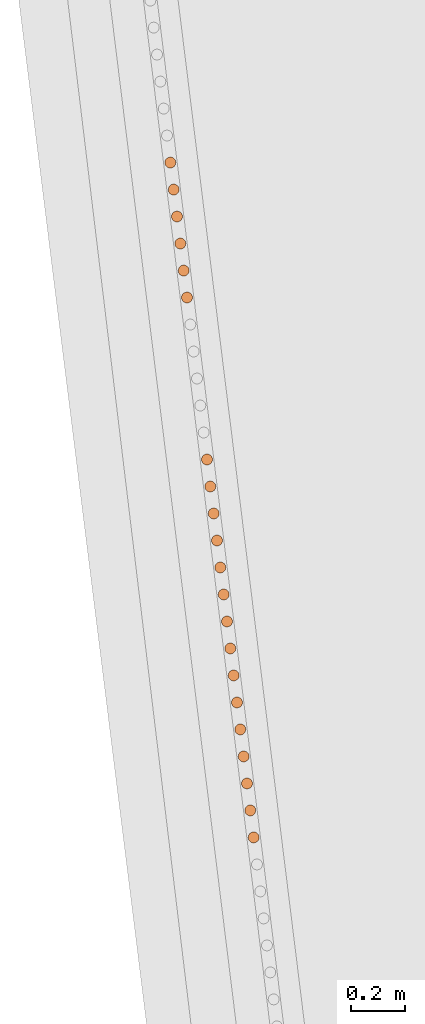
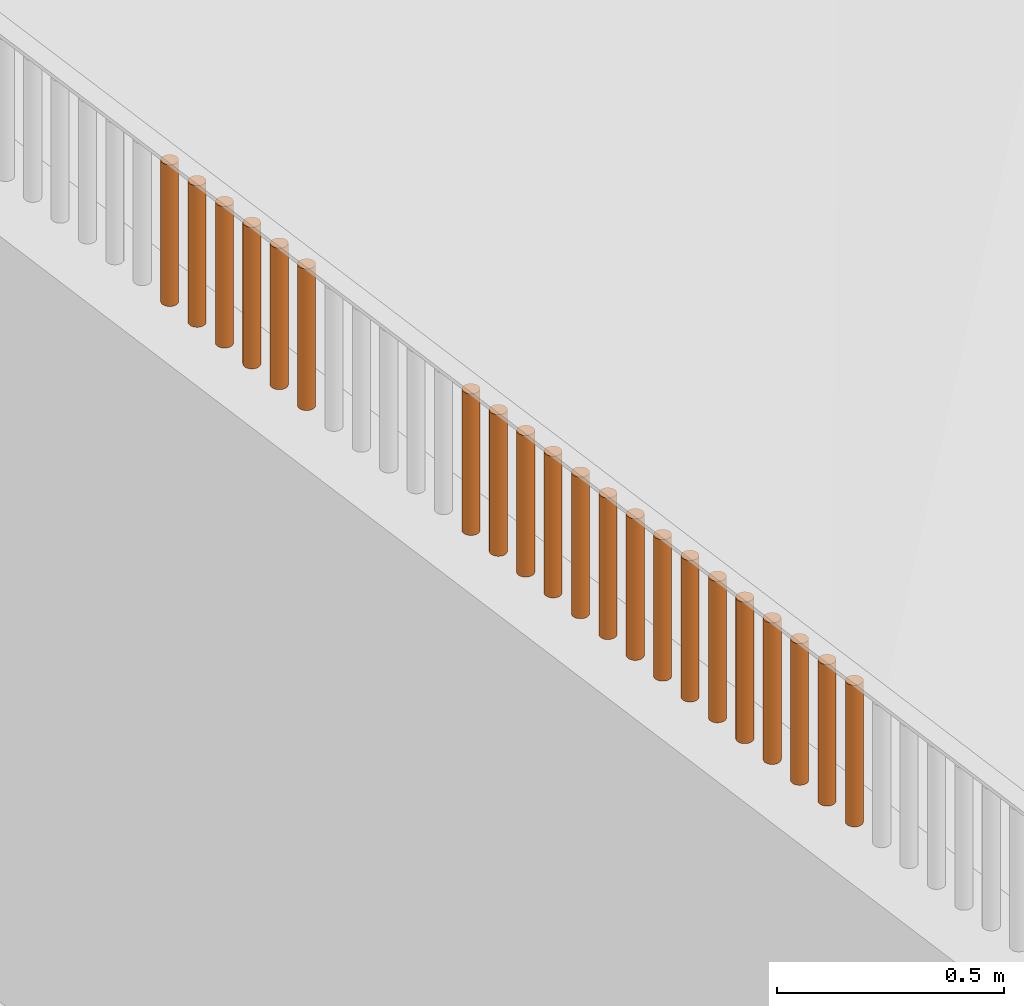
# One storey, part 223 of 1809: 21 proxies, 1 element without a shape of its own.
"""IFC2X3 building model written with IfcOpenShell, lengths in millimetres."""

from ifc_helpers import new_model, entity, si_unit, converted_unit, derived_unit, money_unit, direction, frame, origin_with_axes, place, context, subcontext, project, spatial, faceted_brep, source, transform, mapped, material, type_object, element, aggregate, save


model = new_model("IFC2X3")

# Units and contexts
model_context = context("Model", 3, precision=0.01, world=origin_with_axes(), true_north=direction((0.0, 1.0)))
body_context = subcontext(model_context, "Body", "Model", "MODEL_VIEW")
ifc_project = project(units=[si_unit("LENGTHUNIT", "METRE", prefix="MILLI"), si_unit("AREAUNIT", "SQUARE_METRE"), si_unit("VOLUMEUNIT", "CUBIC_METRE"), converted_unit("PLANEANGLEUNIT", "DEGREE", entity("IfcPlaneAngleMeasure", 0.0174532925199), si_unit("PLANEANGLEUNIT", "RADIAN"), dimensions=[0, 0, 0, 0, 0, 0, 0]), si_unit("SOLIDANGLEUNIT", "STERADIAN"), money_unit("EUR"), converted_unit("TIMEUNIT", "Year", entity("IfcTimeMeasure", 31556926.0), si_unit("TIMEUNIT", "SECOND"), dimensions=[0, 0, 1, 0, 0, 0, 0]), si_unit("MASSUNIT", "GRAM", prefix="KILO"), si_unit("THERMODYNAMICTEMPERATUREUNIT", "DEGREE_CELSIUS"), si_unit("LUMINOUSINTENSITYUNIT", "LUMEN"), si_unit("ENERGYUNIT", "JOULE", prefix="MEGA"), derived_unit("THERMALCONDUCTANCEUNIT", [(si_unit("POWERUNIT", "WATT"), 1), (si_unit("LENGTHUNIT", "METRE"), -1), (si_unit("THERMODYNAMICTEMPERATUREUNIT", "KELVIN"), -1)]), derived_unit("SPECIFICHEATCAPACITYUNIT", [(si_unit("ENERGYUNIT", "JOULE"), 1), (si_unit("MASSUNIT", "GRAM", prefix="KILO"), -1), (si_unit("THERMODYNAMICTEMPERATUREUNIT", "KELVIN"), -1)]), derived_unit("MASSDENSITYUNIT", [(si_unit("MASSUNIT", "GRAM", prefix="KILO"), 1), (si_unit("VOLUMEUNIT", "CUBIC_METRE"), -1)])], contexts=[model_context])

# Site, building, storey
site_placement = place(None, origin_with_axes())
site = spatial("IfcSite", under=ifc_project, at=site_placement, Name="Politse- ja Piirivalveameti ning Päästeameti ühishoone", CompositionType="ELEMENT")
building_placement = place(site_placement, origin_with_axes())
building = spatial("IfcBuilding", under=site, at=building_placement, Name="Politse- ja Piirivalveameti ning Päästeameti ühishoone", CompositionType="ELEMENT")
storey_placement = place(building_placement, origin_with_axes())
storey = spatial("IfcBuildingStorey", under=building, at=storey_placement, Name="Esimene korrus", CompositionType="ELEMENT", Elevation=0.0)

# Proxies
building_element_proxy_type_1 = type_object("IfcBuildingElementProxyType", Name="Railing Type", PredefinedType="NOTDEFINED")
proxy_1_placement = place(storey_placement, frame((-18956.5522504, -53688.4757966, 2100.0), z_axis=(0.0, 0.0, 1.0), x_axis=(1.0, 0.0, 0.0)))
proxy_1 = element("IfcBuildingElementProxy", 1, at=proxy_1_placement, inside=storey, type_object=building_element_proxy_type_1, Name="PIIRDEAED")
ifc_material = material(Name="ET-06_Teras - Konstruktsioon")
building_element_proxy_type_2 = type_object("IfcBuildingElementProxyType", Name="IfcBuildingElementProxy", PredefinedType="NOTDEFINED")
shared_shape_1 = source(origin_with_axes(), body_context, "Body", "Brep", [
    faceted_brep([(0.0, -20.0, 0.0), (3.47296355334, -19.6961550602, 0.0), (3.47296355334, -19.6961550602, 380.000012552), (0.0, -20.0, 380.000012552), (-3.47296355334, -19.6961550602, 0.0), (-6.84040286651, -18.7938524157, 0.0), (-10.0, -17.3205080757, 0.0), (-12.8557521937, -15.3208888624, 0.0), (-15.3208888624, -12.8557521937, 0.0), (-17.3205080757, -10.0, 0.0), (-18.7938524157, -6.84040286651, 0.0), (-19.6961550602, -3.47296355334, 0.0), (-20.0, 0.0, 0.0), (-19.6961550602, 3.47296355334, 0.0), (-18.7938524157, 6.84040286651, 0.0), (-17.3205080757, 10.0, 0.0), (-15.3208888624, 12.8557521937, 0.0), (-12.8557521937, 15.3208888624, 0.0), (-10.0, 17.3205080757, 0.0), (-6.84040286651, 18.7938524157, 0.0), (-3.47296355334, 19.6961550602, 0.0), (0.0, 20.0, 0.0), (3.47296355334, 19.6961550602, 0.0), (6.84040286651, 18.7938524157, 0.0), (10.0, 17.3205080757, 0.0), (12.8557521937, 15.3208888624, 0.0), (15.3208888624, 12.8557521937, 0.0), (17.3205080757, 10.0, 0.0), (18.7938524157, 6.84040286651, 0.0), (19.6961550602, 3.47296355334, 0.0), (20.0, 0.0, 0.0), (19.6961550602, -3.47296355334, 0.0), (18.7938524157, -6.84040286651, 0.0), (17.3205080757, -10.0, 0.0), (15.3208888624, -12.8557521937, 0.0), (12.8557521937, -15.3208888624, 0.0), (10.0, -17.3205080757, 0.0), (6.84040286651, -18.7938524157, 0.0), (6.84040286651, -18.7938524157, 380.000012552), (10.0, -17.3205080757, 380.000012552), (12.8557521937, -15.3208888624, 380.000012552), (15.3208888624, -12.8557521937, 380.000012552), (17.3205080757, -10.0, 380.000012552), (18.7938524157, -6.84040286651, 380.000012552), (19.6961550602, -3.47296355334, 380.000012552), (20.0, 0.0, 380.000012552), (19.6961550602, 3.47296355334, 380.000012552), (18.7938524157, 6.84040286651, 380.000012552), (17.3205080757, 10.0, 380.000012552), (15.3208888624, 12.8557521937, 380.000012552), (12.8557521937, 15.3208888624, 380.000012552), (10.0, 17.3205080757, 380.000012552), (6.84040286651, 18.7938524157, 380.000012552), (3.47296355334, 19.6961550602, 380.000012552), (0.0, 20.0, 380.000012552), (-3.47296355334, 19.6961550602, 380.000012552), (-6.84040286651, 18.7938524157, 380.000012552), (-10.0, 17.3205080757, 380.000012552), (-12.8557521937, 15.3208888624, 380.000012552), (-15.3208888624, 12.8557521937, 380.000012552), (-17.3205080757, 10.0, 380.000012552), (-18.7938524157, 6.84040286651, 380.000012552), (-19.6961550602, 3.47296355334, 380.000012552), (-20.0, 0.0, 380.000012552), (-19.6961550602, -3.47296355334, 380.000012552), (-18.7938524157, -6.84040286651, 380.000012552), (-17.3205080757, -10.0, 380.000012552), (-15.3208888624, -12.8557521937, 380.000012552), (-12.8557521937, -15.3208888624, 380.000012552), (-10.0, -17.3205080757, 380.000012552), (-6.84040286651, -18.7938524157, 380.000012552), (-3.47296355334, -19.6961550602, 380.000012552)], [[[0, 1, 2, 3]], [[0, 4, 5, 6, 7, 8, 9, 10, 11, 12, 13, 14, 15, 16, 17, 18, 19, 20, 21, 22, 23, 24, 25, 26, 27, 28, 29, 30, 31, 32, 33, 34, 35, 36, 37, 1]], [[1, 37, 38, 2]], [[3, 2, 38, 39, 40, 41, 42, 43, 44, 45, 46, 47, 48, 49, 50, 51, 52, 53, 54, 55, 56, 57, 58, 59, 60, 61, 62, 63, 64, 65, 66, 67, 68, 69, 70, 71]], [[4, 0, 3, 71]], [[5, 4, 71, 70]], [[6, 5, 70, 69]], [[7, 6, 69, 68]], [[8, 7, 68, 67]], [[9, 8, 67, 66]], [[10, 9, 66, 65]], [[11, 10, 65, 64]], [[12, 11, 64, 63]], [[13, 12, 63, 62]], [[14, 13, 62, 61]], [[15, 14, 61, 60]], [[16, 15, 60, 59]], [[17, 16, 59, 58]], [[18, 17, 58, 57]], [[19, 18, 57, 56]], [[20, 19, 56, 55]], [[21, 20, 55, 54]], [[22, 21, 54, 53]], [[23, 22, 53, 52]], [[24, 23, 52, 51]], [[25, 24, 51, 50]], [[26, 25, 50, 49]], [[27, 26, 49, 48]], [[28, 27, 48, 47]], [[29, 28, 47, 46]], [[30, 29, 46, 45]], [[31, 30, 45, 44]], [[32, 31, 44, 43]], [[33, 32, 43, 42]], [[34, 33, 42, 41]], [[35, 34, 41, 40]], [[36, 35, 40, 39]], [[37, 36, 39, 38]]]),
])
proxy_2_placement = place(proxy_1_placement, frame((-4857.38005393, 38518.1667696, -1.25517001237e-05), z_axis=(0.0, 0.0, 1.0), x_axis=(1.0, 0.0, 0.0)))
proxy_2 = element("IfcBuildingElementProxy", 2, at=proxy_2_placement, type_object=building_element_proxy_type_2, material=ifc_material, Name="BALUSTER - 001", context=body_context, shape_type="MappedRepresentation", body=[
    mapped(shared_shape_1, transform((0.0, 0.0, 0.0), x_axis=(0.992468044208, 0.122503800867, 0.0), y_axis=(-0.122503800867, 0.992468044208, 0.0), z_axis=(0.0, 0.0, 1.0))),
])
proxy_3_placement = place(proxy_1_placement, frame((-4881.87546375, 38716.6170325, -1.25517001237e-05), z_axis=(0.0, 0.0, 1.0), x_axis=(1.0, 0.0, 0.0)))
proxy_3 = element("IfcBuildingElementProxy", 3, at=proxy_3_placement, type_object=building_element_proxy_type_2, material=ifc_material, Name="BALUSTER - 001", context=body_context, shape_type="MappedRepresentation", body=[
    mapped(shared_shape_1, transform((0.0, 0.0, 0.0), x_axis=(0.992468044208, 0.122503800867, 0.0), y_axis=(-0.122503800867, 0.992468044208, 0.0), z_axis=(0.0, 0.0, 1.0))),
])
proxy_4_placement = place(proxy_1_placement, frame((-4906.37087358, 38915.0672953, -1.25517001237e-05), z_axis=(0.0, 0.0, 1.0), x_axis=(1.0, 0.0, 0.0)))
proxy_4 = element("IfcBuildingElementProxy", 4, at=proxy_4_placement, type_object=building_element_proxy_type_2, material=ifc_material, Name="BALUSTER - 001", context=body_context, shape_type="MappedRepresentation", body=[
    mapped(shared_shape_1, transform((0.0, 0.0, 0.0), x_axis=(0.992468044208, 0.122503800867, 0.0), y_axis=(-0.122503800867, 0.992468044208, 0.0), z_axis=(0.0, 0.0, 1.0))),
])
proxy_5_placement = place(proxy_1_placement, frame((-4930.86628341, 39113.5175582, -1.25517001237e-05), z_axis=(0.0, 0.0, 1.0), x_axis=(1.0, 0.0, 0.0)))
proxy_5 = element("IfcBuildingElementProxy", 5, at=proxy_5_placement, type_object=building_element_proxy_type_2, material=ifc_material, Name="BALUSTER - 001", context=body_context, shape_type="MappedRepresentation", body=[
    mapped(shared_shape_1, transform((0.0, 0.0, 0.0), x_axis=(0.992468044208, 0.122503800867, 0.0), y_axis=(-0.122503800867, 0.992468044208, 0.0), z_axis=(0.0, 0.0, 1.0))),
])
proxy_6_placement = place(proxy_1_placement, frame((-5041.09562762, 40006.543741, -1.25517001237e-05), z_axis=(0.0, 0.0, 1.0), x_axis=(1.0, 0.0, 0.0)))
proxy_6 = element("IfcBuildingElementProxy", 6, at=proxy_6_placement, type_object=building_element_proxy_type_2, material=ifc_material, Name="BALUSTER - 001", context=body_context, shape_type="MappedRepresentation", body=[
    mapped(shared_shape_1, transform((0.0, 0.0, 0.0), x_axis=(0.992468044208, 0.122503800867, 0.0), y_axis=(-0.122503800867, 0.992468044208, 0.0), z_axis=(0.0, 0.0, 1.0))),
])
proxy_7_placement = place(proxy_1_placement, frame((-5065.59103745, 40204.9940038, -1.25517001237e-05), z_axis=(0.0, 0.0, 1.0), x_axis=(1.0, 0.0, 0.0)))
proxy_7 = element("IfcBuildingElementProxy", 7, at=proxy_7_placement, type_object=building_element_proxy_type_2, material=ifc_material, Name="BALUSTER - 001", context=body_context, shape_type="MappedRepresentation", body=[
    mapped(shared_shape_1, transform((0.0, 0.0, 0.0), x_axis=(0.992468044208, 0.122503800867, 0.0), y_axis=(-0.122503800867, 0.992468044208, 0.0), z_axis=(0.0, 0.0, 1.0))),
])
proxy_8_placement = place(proxy_1_placement, frame((-5077.83874236, 40304.2191353, -1.25517001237e-05), z_axis=(0.0, 0.0, 1.0), x_axis=(1.0, 0.0, 0.0)))
proxy_8 = element("IfcBuildingElementProxy", 8, at=proxy_8_placement, type_object=building_element_proxy_type_2, material=ifc_material, Name="BALUSTER - 001", context=body_context, shape_type="MappedRepresentation", body=[
    mapped(shared_shape_1, transform((0.0, 0.0, 0.0), x_axis=(0.992468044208, 0.122503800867, 0.0), y_axis=(-0.122503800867, 0.992468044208, 0.0), z_axis=(0.0, 0.0, 1.0))),
])
proxy_9_placement = place(proxy_1_placement, frame((-5090.08644728, 40403.4442667, -1.25517001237e-05), z_axis=(0.0, 0.0, 1.0), x_axis=(1.0, 0.0, 0.0)))
proxy_9 = element("IfcBuildingElementProxy", 9, at=proxy_9_placement, type_object=building_element_proxy_type_2, material=ifc_material, Name="BALUSTER - 001", context=body_context, shape_type="MappedRepresentation", body=[
    mapped(shared_shape_1, transform((0.0, 0.0, 0.0), x_axis=(0.992468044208, 0.122503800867, 0.0), y_axis=(-0.122503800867, 0.992468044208, 0.0), z_axis=(0.0, 0.0, 1.0))),
])
shared_shape_2 = source(origin_with_axes(), body_context, "Body", "Brep", [
    faceted_brep([(0.0, -20.0, 0.0), (3.47296355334, -19.6961550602, 0.0), (3.47296355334, -19.6961550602, 380.000012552), (0.0, -20.0, 380.000012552), (-3.47296355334, -19.6961550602, 0.0), (-6.84040286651, -18.7938524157, 0.0), (-10.0, -17.3205080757, 0.0), (-12.8557521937, -15.3208888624, 0.0), (-15.3208888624, -12.8557521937, 0.0), (-17.3205080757, -10.0, 0.0), (-18.7938524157, -6.84040286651, 0.0), (-19.6961550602, -3.47296355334, 0.0), (-20.0, 0.0, 0.0), (-19.6961550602, 3.47296355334, 0.0), (-18.7938524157, 6.84040286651, 0.0), (-17.3205080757, 10.0, 0.0), (-15.3208888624, 12.8557521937, 0.0), (-12.8557521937, 15.3208888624, 0.0), (-10.0, 17.3205080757, 0.0), (-6.84040286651, 18.7938524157, 0.0), (-3.47296355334, 19.6961550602, 0.0), (0.0, 20.0, 0.0), (3.47296355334, 19.6961550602, 0.0), (6.84040286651, 18.7938524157, 0.0), (10.0, 17.3205080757, 0.0), (12.8557521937, 15.3208888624, 0.0), (15.3208888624, 12.8557521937, 0.0), (17.3205080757, 10.0, 0.0), (18.7938524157, 6.84040286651, 0.0), (19.6961550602, 3.47296355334, 0.0), (20.0, 0.0, 0.0), (19.6961550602, -3.47296355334, 0.0), (18.7938524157, -6.84040286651, 0.0), (17.3205080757, -10.0, 0.0), (15.3208888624, -12.8557521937, 0.0), (12.8557521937, -15.3208888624, 0.0), (10.0, -17.3205080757, 0.0), (6.84040286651, -18.7938524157, 0.0), (6.84040286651, -18.7938524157, 380.000012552), (10.0, -17.3205080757, 380.000012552), (12.8557521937, -15.3208888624, 380.000012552), (15.3208888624, -12.8557521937, 380.000012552), (17.3205080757, -10.0, 380.000012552), (18.7938524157, -6.84040286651, 380.000012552), (19.6961550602, -3.47296355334, 380.000012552), (20.0, 0.0, 380.000012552), (19.6961550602, 3.47296355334, 380.000012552), (18.7938524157, 6.84040286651, 380.000012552), (17.3205080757, 10.0, 380.000012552), (15.3208888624, 12.8557521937, 380.000012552), (12.8557521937, 15.3208888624, 380.000012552), (10.0, 17.3205080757, 380.000012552), (6.84040286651, 18.7938524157, 380.000012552), (3.47296355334, 19.6961550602, 380.000012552), (0.0, 20.0, 380.000012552), (-3.47296355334, 19.6961550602, 380.000012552), (-6.84040286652, 18.7938524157, 380.000012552), (-10.0, 17.3205080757, 380.000012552), (-12.8557521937, 15.3208888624, 380.000012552), (-15.3208888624, 12.8557521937, 380.000012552), (-17.3205080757, 10.0, 380.000012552), (-18.7938524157, 6.84040286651, 380.000012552), (-19.6961550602, 3.47296355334, 380.000012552), (-20.0, 0.0, 380.000012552), (-19.6961550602, -3.47296355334, 380.000012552), (-18.7938524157, -6.84040286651, 380.000012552), (-17.3205080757, -10.0, 380.000012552), (-15.3208888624, -12.8557521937, 380.000012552), (-12.8557521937, -15.3208888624, 380.000012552), (-10.0, -17.3205080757, 380.000012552), (-6.84040286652, -18.7938524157, 380.000012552), (-3.47296355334, -19.6961550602, 380.000012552)], [[[0, 1, 2, 3]], [[0, 4, 5, 6, 7, 8, 9, 10, 11, 12, 13, 14, 15, 16, 17, 18, 19, 20, 21, 22, 23, 24, 25, 26, 27, 28, 29, 30, 31, 32, 33, 34, 35, 36, 37, 1]], [[1, 37, 38, 2]], [[3, 2, 38, 39, 40, 41, 42, 43, 44, 45, 46, 47, 48, 49, 50, 51, 52, 53, 54, 55, 56, 57, 58, 59, 60, 61, 62, 63, 64, 65, 66, 67, 68, 69, 70, 71]], [[4, 0, 3, 71]], [[5, 4, 71, 70]], [[6, 5, 70, 69]], [[7, 6, 69, 68]], [[8, 7, 68, 67]], [[9, 8, 67, 66]], [[10, 9, 66, 65]], [[11, 10, 65, 64]], [[12, 11, 64, 63]], [[13, 12, 63, 62]], [[14, 13, 62, 61]], [[15, 14, 61, 60]], [[16, 15, 60, 59]], [[17, 16, 59, 58]], [[18, 17, 58, 57]], [[19, 18, 57, 56]], [[20, 19, 56, 55]], [[21, 20, 55, 54]], [[22, 21, 54, 53]], [[23, 22, 53, 52]], [[24, 23, 52, 51]], [[25, 24, 51, 50]], [[26, 25, 50, 49]], [[27, 26, 49, 48]], [[28, 27, 48, 47]], [[29, 28, 47, 46]], [[30, 29, 46, 45]], [[31, 30, 45, 44]], [[32, 31, 44, 43]], [[33, 32, 43, 42]], [[34, 33, 42, 41]], [[35, 34, 41, 40]], [[36, 35, 40, 39]], [[37, 36, 39, 38]]]),
])
proxy_10_placement = place(proxy_1_placement, frame((-4796.14152936, 38022.0411125, -1.25517001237e-05), z_axis=(0.0, 0.0, 1.0), x_axis=(1.0, 0.0, 0.0)))
proxy_10 = element("IfcBuildingElementProxy", 10, at=proxy_10_placement, type_object=building_element_proxy_type_2, material=ifc_material, Name="BALUSTER - 001", context=body_context, shape_type="MappedRepresentation", body=[
    mapped(shared_shape_2, transform((0.0, 0.0, 0.0), x_axis=(0.992468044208, 0.122503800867, 0.0), y_axis=(-0.122503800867, 0.992468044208, 0.0), z_axis=(0.0, 0.0, 1.0))),
])
proxy_11_placement = place(proxy_1_placement, frame((-5028.84792271, 39907.3186096, -1.25517001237e-05), z_axis=(0.0, 0.0, 1.0), x_axis=(1.0, 0.0, 0.0)))
proxy_11 = element("IfcBuildingElementProxy", 11, at=proxy_11_placement, type_object=building_element_proxy_type_2, material=ifc_material, Name="BALUSTER - 001", context=body_context, shape_type="MappedRepresentation", body=[
    mapped(shared_shape_2, transform((0.0, 0.0, 0.0), x_axis=(0.992468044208, 0.122503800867, 0.0), y_axis=(-0.122503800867, 0.992468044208, 0.0), z_axis=(0.0, 0.0, 1.0))),
])
proxy_12_placement = place(proxy_1_placement, frame((-5053.34333254, 40105.7688724, -1.25517001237e-05), z_axis=(0.0, 0.0, 1.0), x_axis=(1.0, 0.0, 0.0)))
proxy_12 = element("IfcBuildingElementProxy", 12, at=proxy_12_placement, type_object=building_element_proxy_type_2, material=ifc_material, Name="BALUSTER - 001", context=body_context, shape_type="MappedRepresentation", body=[
    mapped(shared_shape_2, transform((0.0, 0.0, 0.0), x_axis=(0.992468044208, 0.122503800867, 0.0), y_axis=(-0.122503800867, 0.992468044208, 0.0), z_axis=(0.0, 0.0, 1.0))),
])
shared_shape_3 = source(origin_with_axes(), body_context, "Body", "Brep", [
    faceted_brep([(0.0, -20.0, 0.0), (3.47296355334, -19.6961550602, 0.0), (3.47296355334, -19.6961550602, 380.000012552), (0.0, -20.0, 380.000012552), (-3.47296355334, -19.6961550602, 0.0), (-6.84040286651, -18.7938524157, 0.0), (-10.0, -17.3205080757, 0.0), (-12.8557521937, -15.3208888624, 0.0), (-15.3208888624, -12.8557521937, 0.0), (-17.3205080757, -10.0, 0.0), (-18.7938524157, -6.84040286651, 0.0), (-19.6961550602, -3.47296355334, 0.0), (-20.0, 0.0, 0.0), (-19.6961550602, 3.47296355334, 0.0), (-18.7938524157, 6.84040286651, 0.0), (-17.3205080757, 10.0, 0.0), (-15.3208888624, 12.8557521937, 0.0), (-12.8557521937, 15.3208888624, 0.0), (-10.0, 17.3205080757, 0.0), (-6.84040286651, 18.7938524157, 0.0), (-3.47296355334, 19.6961550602, 0.0), (0.0, 20.0, 0.0), (3.47296355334, 19.6961550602, 0.0), (6.84040286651, 18.7938524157, 0.0), (10.0, 17.3205080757, 0.0), (12.8557521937, 15.3208888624, 0.0), (15.3208888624, 12.8557521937, 0.0), (17.3205080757, 10.0, 0.0), (18.7938524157, 6.84040286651, 0.0), (19.6961550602, 3.47296355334, 0.0), (20.0, 0.0, 0.0), (19.6961550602, -3.47296355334, 0.0), (18.7938524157, -6.84040286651, 0.0), (17.3205080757, -10.0, 0.0), (15.3208888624, -12.8557521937, 0.0), (12.8557521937, -15.3208888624, 0.0), (10.0, -17.3205080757, 0.0), (6.84040286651, -18.7938524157, 0.0), (6.84040286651, -18.7938524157, 380.000012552), (10.0, -17.3205080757, 380.000012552), (12.8557521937, -15.3208888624, 380.000012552), (15.3208888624, -12.8557521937, 380.000012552), (17.3205080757, -10.0, 380.000012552), (18.7938524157, -6.84040286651, 380.000012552), (19.6961550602, -3.47296355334, 380.000012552), (20.0, 0.0, 380.000012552), (19.6961550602, 3.47296355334, 380.000012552), (18.7938524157, 6.84040286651, 380.000012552), (17.3205080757, 10.0, 380.000012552), (15.3208888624, 12.8557521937, 380.000012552), (12.8557521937, 15.3208888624, 380.000012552), (10.0, 17.3205080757, 380.000012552), (6.84040286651, 18.7938524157, 380.000012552), (3.47296355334, 19.6961550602, 380.000012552), (0.0, 20.0, 380.000012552), (-3.47296355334, 19.6961550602, 380.000012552), (-6.84040286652, 18.7938524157, 380.000012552), (-10.0, 17.3205080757, 380.000012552), (-12.8557521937, 15.3208888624, 380.000012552), (-15.3208888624, 12.8557521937, 380.000012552), (-17.3205080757, 10.0, 380.000012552), (-18.7938524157, 6.84040286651, 380.000012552), (-19.6961550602, 3.47296355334, 380.000012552), (-20.0, 0.0, 380.000012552), (-19.6961550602, -3.47296355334, 380.000012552), (-18.7938524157, -6.84040286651, 380.000012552), (-17.3205080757, -10.0, 380.000012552), (-15.3208888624, -12.8557521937, 380.000012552), (-12.8557521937, -15.3208888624, 380.000012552), (-10.0, -17.3205080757, 380.000012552), (-6.84040286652, -18.7938524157, 380.000012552), (-3.47296355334, -19.6961550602, 380.000012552)], [[[0, 1, 2, 3]], [[0, 4, 5, 6, 7, 8, 9, 10, 11, 12, 13, 14, 15, 16, 17, 18, 19, 20, 21, 22, 23, 24, 25, 26, 27, 28, 29, 30, 31, 32, 33, 34, 35, 36, 37, 1]], [[1, 37, 38, 2]], [[3, 2, 38, 39, 40, 41, 42, 43, 44, 45, 46, 47, 48, 49, 50, 51, 52, 53, 54, 55, 56, 57, 58, 59, 60, 61, 62, 63, 64, 65, 66, 67, 68, 69, 70, 71]], [[4, 0, 3, 71]], [[5, 4, 71, 70]], [[6, 5, 70, 69]], [[7, 6, 69, 68]], [[8, 7, 68, 67]], [[9, 8, 67, 66]], [[10, 9, 66, 65]], [[11, 10, 65, 64]], [[12, 11, 64, 63]], [[13, 12, 63, 62]], [[14, 13, 62, 61]], [[15, 14, 61, 60]], [[16, 15, 60, 59]], [[17, 16, 59, 58]], [[18, 17, 58, 57]], [[19, 18, 57, 56]], [[20, 19, 56, 55]], [[21, 20, 55, 54]], [[22, 21, 54, 53]], [[23, 22, 53, 52]], [[24, 23, 52, 51]], [[25, 24, 51, 50]], [[26, 25, 50, 49]], [[27, 26, 49, 48]], [[28, 27, 48, 47]], [[29, 28, 47, 46]], [[30, 29, 46, 45]], [[31, 30, 45, 44]], [[32, 31, 44, 43]], [[33, 32, 43, 42]], [[34, 33, 42, 41]], [[35, 34, 41, 40]], [[36, 35, 40, 39]], [[37, 36, 39, 38]]]),
])
proxy_13_placement = place(proxy_1_placement, frame((-4783.89382445, 37922.8159811, -1.25517001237e-05), z_axis=(0.0, 0.0, 1.0), x_axis=(1.0, 0.0, 0.0)))
proxy_13 = element("IfcBuildingElementProxy", 13, at=proxy_13_placement, type_object=building_element_proxy_type_2, material=ifc_material, Name="BALUSTER - 001", context=body_context, shape_type="MappedRepresentation", body=[
    mapped(shared_shape_3, transform((0.0, 0.0, 0.0), x_axis=(0.992468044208, 0.122503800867, 0.0), y_axis=(-0.122503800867, 0.992468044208, 0.0), z_axis=(0.0, 0.0, 1.0))),
])
proxy_14_placement = place(proxy_1_placement, frame((-4808.38923428, 38121.2662439, -1.25517001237e-05), z_axis=(0.0, 0.0, 1.0), x_axis=(1.0, 0.0, 0.0)))
proxy_14 = element("IfcBuildingElementProxy", 14, at=proxy_14_placement, type_object=building_element_proxy_type_2, material=ifc_material, Name="BALUSTER - 001", context=body_context, shape_type="MappedRepresentation", body=[
    mapped(shared_shape_3, transform((0.0, 0.0, 0.0), x_axis=(0.992468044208, 0.122503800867, 0.0), y_axis=(-0.122503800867, 0.992468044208, 0.0), z_axis=(0.0, 0.0, 1.0))),
])
proxy_15_placement = place(proxy_1_placement, frame((-4820.63693919, 38220.4913753, -1.25517001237e-05), z_axis=(0.0, 0.0, 1.0), x_axis=(1.0, 0.0, 0.0)))
proxy_15 = element("IfcBuildingElementProxy", 15, at=proxy_15_placement, type_object=building_element_proxy_type_2, material=ifc_material, Name="BALUSTER - 001", context=body_context, shape_type="MappedRepresentation", body=[
    mapped(shared_shape_3, transform((0.0, 0.0, 0.0), x_axis=(0.992468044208, 0.122503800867, 0.0), y_axis=(-0.122503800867, 0.992468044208, 0.0), z_axis=(0.0, 0.0, 1.0))),
])
proxy_16_placement = place(proxy_1_placement, frame((-4832.8846441, 38319.7165068, -1.25517001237e-05), z_axis=(0.0, 0.0, 1.0), x_axis=(1.0, 0.0, 0.0)))
proxy_16 = element("IfcBuildingElementProxy", 16, at=proxy_16_placement, type_object=building_element_proxy_type_2, material=ifc_material, Name="BALUSTER - 001", context=body_context, shape_type="MappedRepresentation", body=[
    mapped(shared_shape_3, transform((0.0, 0.0, 0.0), x_axis=(0.992468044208, 0.122503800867, 0.0), y_axis=(-0.122503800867, 0.992468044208, 0.0), z_axis=(0.0, 0.0, 1.0))),
])
proxy_17_placement = place(proxy_1_placement, frame((-4869.62775884, 38617.391901, -1.25517001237e-05), z_axis=(0.0, 0.0, 1.0), x_axis=(1.0, 0.0, 0.0)))
proxy_17 = element("IfcBuildingElementProxy", 17, at=proxy_17_placement, type_object=building_element_proxy_type_2, material=ifc_material, Name="BALUSTER - 001", context=body_context, shape_type="MappedRepresentation", body=[
    mapped(shared_shape_3, transform((0.0, 0.0, 0.0), x_axis=(0.992468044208, 0.122503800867, 0.0), y_axis=(-0.122503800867, 0.992468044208, 0.0), z_axis=(0.0, 0.0, 1.0))),
])
proxy_18_placement = place(proxy_1_placement, frame((-4894.12316867, 38815.8421639, -1.25517001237e-05), z_axis=(0.0, 0.0, 1.0), x_axis=(1.0, 0.0, 0.0)))
proxy_18 = element("IfcBuildingElementProxy", 18, at=proxy_18_placement, type_object=building_element_proxy_type_2, material=ifc_material, Name="BALUSTER - 001", context=body_context, shape_type="MappedRepresentation", body=[
    mapped(shared_shape_3, transform((0.0, 0.0, 0.0), x_axis=(0.992468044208, 0.122503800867, 0.0), y_axis=(-0.122503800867, 0.992468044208, 0.0), z_axis=(0.0, 0.0, 1.0))),
])
proxy_19_placement = place(proxy_1_placement, frame((-4918.61857849, 39014.2924267, -1.25517001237e-05), z_axis=(0.0, 0.0, 1.0), x_axis=(1.0, 0.0, 0.0)))
proxy_19 = element("IfcBuildingElementProxy", 19, at=proxy_19_placement, type_object=building_element_proxy_type_2, material=ifc_material, Name="BALUSTER - 001", context=body_context, shape_type="MappedRepresentation", body=[
    mapped(shared_shape_3, transform((0.0, 0.0, 0.0), x_axis=(0.992468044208, 0.122503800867, 0.0), y_axis=(-0.122503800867, 0.992468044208, 0.0), z_axis=(0.0, 0.0, 1.0))),
])
shared_shape_4 = source(origin_with_axes(), body_context, "Body", "Brep", [
    faceted_brep([(0.0, -20.0, 0.0), (3.47296355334, -19.6961550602, 0.0), (3.47296355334, -19.6961550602, 380.000012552), (0.0, -20.0, 380.000012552), (-3.47296355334, -19.6961550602, 0.0), (-6.84040286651, -18.7938524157, 0.0), (-10.0, -17.3205080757, 0.0), (-12.8557521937, -15.3208888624, 0.0), (-15.3208888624, -12.8557521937, 0.0), (-17.3205080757, -10.0, 0.0), (-18.7938524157, -6.84040286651, 0.0), (-19.6961550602, -3.47296355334, 0.0), (-20.0, 0.0, 0.0), (-19.6961550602, 3.47296355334, 0.0), (-18.7938524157, 6.84040286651, 0.0), (-17.3205080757, 10.0, 0.0), (-15.3208888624, 12.8557521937, 0.0), (-12.8557521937, 15.3208888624, 0.0), (-10.0, 17.3205080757, 0.0), (-6.84040286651, 18.7938524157, 0.0), (-3.47296355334, 19.6961550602, 0.0), (0.0, 20.0, 0.0), (3.47296355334, 19.6961550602, 0.0), (6.84040286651, 18.7938524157, 0.0), (10.0, 17.3205080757, 0.0), (12.8557521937, 15.3208888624, 0.0), (15.3208888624, 12.8557521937, 0.0), (17.3205080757, 10.0, 0.0), (18.7938524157, 6.84040286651, 0.0), (19.6961550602, 3.47296355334, 0.0), (20.0, 0.0, 0.0), (19.6961550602, -3.47296355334, 0.0), (18.7938524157, -6.84040286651, 0.0), (17.3205080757, -10.0, 0.0), (15.3208888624, -12.8557521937, 0.0), (12.8557521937, -15.3208888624, 0.0), (10.0, -17.3205080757, 0.0), (6.84040286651, -18.7938524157, 0.0), (6.84040286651, -18.7938524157, 380.000012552), (10.0, -17.3205080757, 380.000012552), (12.8557521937, -15.3208888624, 380.000012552), (15.3208888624, -12.8557521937, 380.000012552), (17.3205080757, -10.0, 380.000012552), (18.7938524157, -6.84040286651, 380.000012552), (19.6961550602, -3.47296355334, 380.000012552), (20.0, 0.0, 380.000012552), (19.6961550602, 3.47296355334, 380.000012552), (18.7938524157, 6.84040286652, 380.000012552), (17.3205080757, 10.0, 380.000012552), (15.3208888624, 12.8557521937, 380.000012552), (12.8557521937, 15.3208888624, 380.000012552), (10.0, 17.3205080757, 380.000012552), (6.84040286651, 18.7938524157, 380.000012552), (3.47296355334, 19.6961550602, 380.000012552), (0.0, 20.0, 380.000012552), (-3.47296355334, 19.6961550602, 380.000012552), (-6.84040286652, 18.7938524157, 380.000012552), (-10.0, 17.3205080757, 380.000012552), (-12.8557521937, 15.3208888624, 380.000012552), (-15.3208888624, 12.8557521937, 380.000012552), (-17.3205080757, 10.0, 380.000012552), (-18.7938524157, 6.84040286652, 380.000012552), (-19.6961550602, 3.47296355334, 380.000012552), (-20.0, 0.0, 380.000012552), (-19.6961550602, -3.47296355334, 380.000012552), (-18.7938524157, -6.84040286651, 380.000012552), (-17.3205080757, -10.0, 380.000012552), (-15.3208888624, -12.8557521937, 380.000012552), (-12.8557521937, -15.3208888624, 380.000012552), (-10.0, -17.3205080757, 380.000012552), (-6.84040286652, -18.7938524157, 380.000012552), (-3.47296355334, -19.6961550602, 380.000012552)], [[[0, 1, 2, 3]], [[0, 4, 5, 6, 7, 8, 9, 10, 11, 12, 13, 14, 15, 16, 17, 18, 19, 20, 21, 22, 23, 24, 25, 26, 27, 28, 29, 30, 31, 32, 33, 34, 35, 36, 37, 1]], [[1, 37, 38, 2]], [[3, 2, 38, 39, 40, 41, 42, 43, 44, 45, 46, 47, 48, 49, 50, 51, 52, 53, 54, 55, 56, 57, 58, 59, 60, 61, 62, 63, 64, 65, 66, 67, 68, 69, 70, 71]], [[4, 0, 3, 71]], [[5, 4, 71, 70]], [[6, 5, 70, 69]], [[7, 6, 69, 68]], [[8, 7, 68, 67]], [[9, 8, 67, 66]], [[10, 9, 66, 65]], [[11, 10, 65, 64]], [[12, 11, 64, 63]], [[13, 12, 63, 62]], [[14, 13, 62, 61]], [[15, 14, 61, 60]], [[16, 15, 60, 59]], [[17, 16, 59, 58]], [[18, 17, 58, 57]], [[19, 18, 57, 56]], [[20, 19, 56, 55]], [[21, 20, 55, 54]], [[22, 21, 54, 53]], [[23, 22, 53, 52]], [[24, 23, 52, 51]], [[25, 24, 51, 50]], [[26, 25, 50, 49]], [[27, 26, 49, 48]], [[28, 27, 48, 47]], [[29, 28, 47, 46]], [[30, 29, 46, 45]], [[31, 30, 45, 44]], [[32, 31, 44, 43]], [[33, 32, 43, 42]], [[34, 33, 42, 41]], [[35, 34, 41, 40]], [[36, 35, 40, 39]], [[37, 36, 39, 38]]]),
])
proxy_20_placement = place(proxy_1_placement, frame((-4845.13234901, 38418.9416382, -1.25517001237e-05), z_axis=(0.0, 0.0, 1.0), x_axis=(1.0, 0.0, 0.0)))
proxy_20 = element("IfcBuildingElementProxy", 20, at=proxy_20_placement, type_object=building_element_proxy_type_2, material=ifc_material, Name="BALUSTER - 001", context=body_context, shape_type="MappedRepresentation", body=[
    mapped(shared_shape_4, transform((0.0, 0.0, 0.0), x_axis=(0.992468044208, 0.122503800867, 0.0), y_axis=(-0.122503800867, 0.992468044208, 0.0), z_axis=(0.0, 0.0, 1.0))),
])
proxy_21_placement = place(proxy_1_placement, frame((-4943.11398832, 39212.7426896, -1.25517001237e-05), z_axis=(0.0, 0.0, 1.0), x_axis=(1.0, 0.0, 0.0)))
proxy_21 = element("IfcBuildingElementProxy", 21, at=proxy_21_placement, type_object=building_element_proxy_type_2, material=ifc_material, Name="BALUSTER - 001", context=body_context, shape_type="MappedRepresentation", body=[
    mapped(shared_shape_4, transform((0.0, 0.0, 0.0), x_axis=(0.992468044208, 0.122503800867, 0.0), y_axis=(-0.122503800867, 0.992468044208, 0.0), z_axis=(0.0, 0.0, 1.0))),
])
proxy_22_placement = place(proxy_1_placement, frame((-4955.36169323, 39311.967821, -1.25517001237e-05), z_axis=(0.0, 0.0, 1.0), x_axis=(1.0, 0.0, 0.0)))
proxy_22 = element("IfcBuildingElementProxy", 22, at=proxy_22_placement, type_object=building_element_proxy_type_2, material=ifc_material, Name="BALUSTER - 001", context=body_context, shape_type="MappedRepresentation", body=[
    mapped(shared_shape_4, transform((0.0, 0.0, 0.0), x_axis=(0.992468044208, 0.122503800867, 0.0), y_axis=(-0.122503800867, 0.992468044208, 0.0), z_axis=(0.0, 0.0, 1.0))),
])
aggregate(proxy_1, [proxy_13, proxy_10, proxy_14, proxy_15, proxy_16, proxy_20, proxy_2, proxy_17, proxy_3, proxy_18, proxy_4, proxy_19, proxy_5, proxy_21, proxy_22, proxy_11, proxy_6, proxy_12, proxy_7, proxy_8, proxy_9])

save(model, "model.ifc")
